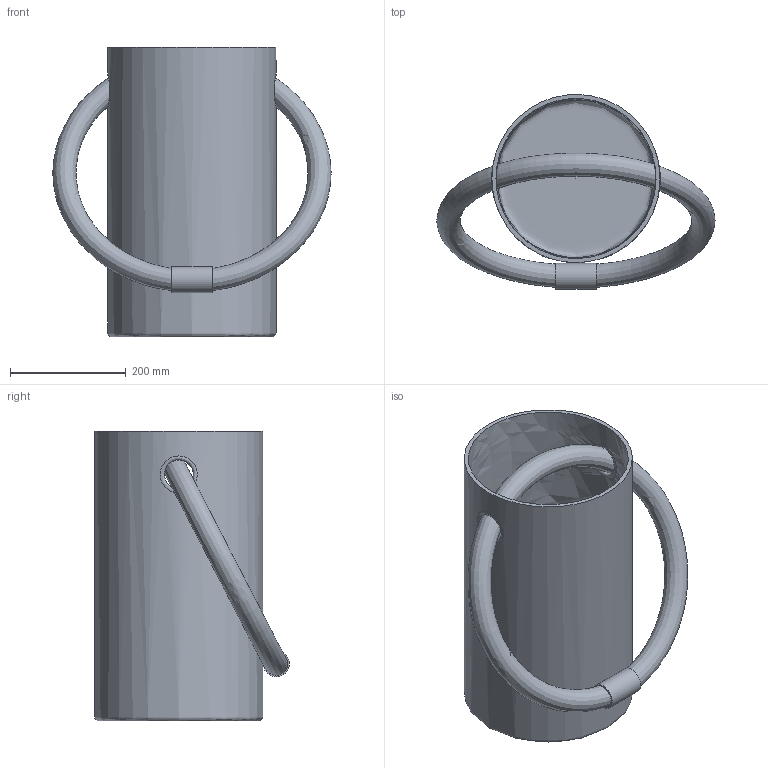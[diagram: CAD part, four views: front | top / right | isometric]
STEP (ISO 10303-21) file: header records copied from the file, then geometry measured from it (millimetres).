
FILE_DESCRIPTION(/* description */ (''),/* implementation_level */ '2;1');
FILE_NAME(/* name */ 'SkLO_VA400_RopeVessel.3dm',/* time_stamp */ '2024-08-08T23:45:16+02:00',/* author */ (''),/* organization */ (''),/* preprocessor_version */ 'ST-DEVELOPER v16.5',/* originating_system */ 'Rhino 7.34',/* authorisation */ '');
FILE_SCHEMA (('CONFIG_CONTROL_DESIGN'));
Length unit declared in the file: millimetre
Products named in the file (1): Document
Bounding box: 479.75 x 335.68 x 500 mm (x, y, z)
Volume: 6347008.6 mm3; surface area: 1115491 mm2
Topology: 3 solids, 3 shells, 10 faces, 25 edges, 15 vertices
Faces by surface type: bspline 6, cylinder 2, plane 2
Full cylindrical faces by diameter (mm): 40 x1, 45 x1
Entity records: 3866 total; most frequent: CARTESIAN_POINT 3632, ORIENTED_EDGE 46, EDGE_CURVE 23, VERTEX_POINT 15, EDGE_LOOP 14, ADVANCED_FACE 10, FACE_OUTER_BOUND 10, DIRECTION 8
